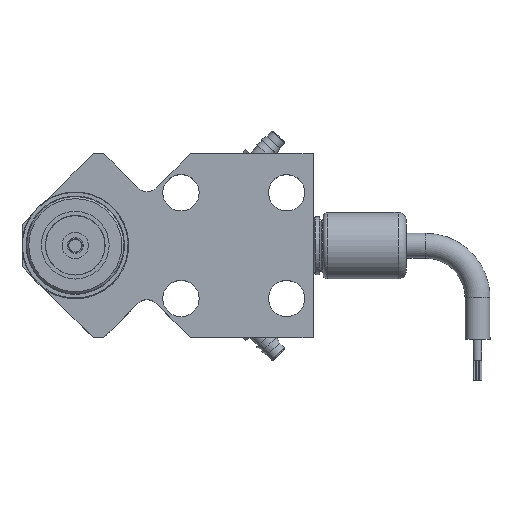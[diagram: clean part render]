
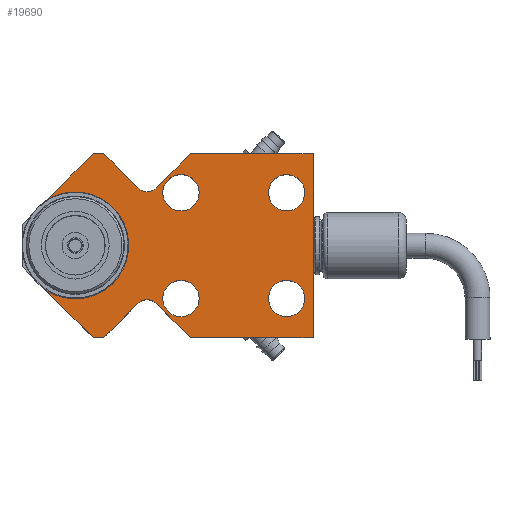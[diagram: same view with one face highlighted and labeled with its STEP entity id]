
A CAD part, top view. The second image highlights one B-rep face of the part: STEP entity #19690.
In plain terms, the highlighted planar face has unit normal (0, 0, 1).
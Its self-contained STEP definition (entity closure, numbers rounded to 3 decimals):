
#904=PLANE('',#20920);
#2370=LINE('',#84500,#3817);
#2736=LINE('',#86235,#4183);
#2970=LINE('',#87316,#4417);
#3045=LINE('',#87824,#4492);
#3046=LINE('',#87826,#4493);
#3047=LINE('',#87828,#4494);
#3048=LINE('',#87831,#4495);
#3049=LINE('',#87833,#4496);
#3050=LINE('',#87837,#4497);
#3051=LINE('',#87839,#4498);
#3052=LINE('',#87840,#4499);
#3817=VECTOR('',#23264,10.);
#4183=VECTOR('',#24056,10.);
#4417=VECTOR('',#24466,10.);
#4492=VECTOR('',#24773,10.);
#4493=VECTOR('',#24774,10.);
#4494=VECTOR('',#24775,10.);
#4495=VECTOR('',#24778,10.);
#4496=VECTOR('',#24779,10.);
#4497=VECTOR('',#24782,10.);
#4498=VECTOR('',#24783,10.);
#4499=VECTOR('',#24784,10.);
#4874=FACE_BOUND('',#7234,.T.);
#4875=FACE_BOUND('',#7235,.T.);
#4876=FACE_BOUND('',#7236,.T.);
#4877=FACE_BOUND('',#7237,.T.);
#5943=FACE_OUTER_BOUND('',#7233,.T.);
#7233=EDGE_LOOP('',(#17308,#17309,#17310,#17311,#17312,#17313,#17314,#17315,
#17316,#17317,#17318,#17319,#17320,#17321));
#7234=EDGE_LOOP('',(#17322));
#7235=EDGE_LOOP('',(#17323));
#7236=EDGE_LOOP('',(#17324));
#7237=EDGE_LOOP('',(#17325));
#7763=CIRCLE('',#20903,4.366);
#7764=CIRCLE('',#20905,4.366);
#7765=CIRCLE('',#20907,4.366);
#7766=CIRCLE('',#20909,4.366);
#7770=CIRCLE('',#20921,12.7);
#7771=CIRCLE('',#20922,3.175);
#7772=CIRCLE('',#20923,3.175);
#8941=VERTEX_POINT('',#84497);
#8942=VERTEX_POINT('',#84499);
#9298=VERTEX_POINT('',#86233);
#9485=VERTEX_POINT('',#87315);
#9562=VERTEX_POINT('',#87795);
#9563=VERTEX_POINT('',#87798);
#9564=VERTEX_POINT('',#87801);
#9565=VERTEX_POINT('',#87804);
#9569=VERTEX_POINT('',#87820);
#9570=VERTEX_POINT('',#87821);
#9571=VERTEX_POINT('',#87823);
#9572=VERTEX_POINT('',#87825);
#9573=VERTEX_POINT('',#87827);
#9574=VERTEX_POINT('',#87829);
#9575=VERTEX_POINT('',#87832);
#9576=VERTEX_POINT('',#87834);
#9577=VERTEX_POINT('',#87836);
#9578=VERTEX_POINT('',#87838);
#11267=EDGE_CURVE('',#8942,#8941,#2370,.T.);
#11769=EDGE_CURVE('',#8941,#9298,#2736,.T.);
#12062=EDGE_CURVE('',#9485,#8942,#2970,.T.);
#12187=EDGE_CURVE('',#9562,#9562,#7763,.T.);
#12188=EDGE_CURVE('',#9563,#9563,#7764,.T.);
#12189=EDGE_CURVE('',#9564,#9564,#7765,.T.);
#12190=EDGE_CURVE('',#9565,#9565,#7766,.T.);
#12194=EDGE_CURVE('',#9569,#9570,#7770,.T.);
#12195=EDGE_CURVE('',#9570,#9571,#3045,.T.);
#12196=EDGE_CURVE('',#9571,#9572,#3046,.T.);
#12197=EDGE_CURVE('',#9572,#9573,#3047,.T.);
#12198=EDGE_CURVE('',#9573,#9574,#7771,.T.);
#12199=EDGE_CURVE('',#9574,#9485,#3048,.T.);
#12200=EDGE_CURVE('',#9298,#9575,#3049,.T.);
#12201=EDGE_CURVE('',#9575,#9576,#7772,.T.);
#12202=EDGE_CURVE('',#9576,#9577,#3050,.T.);
#12203=EDGE_CURVE('',#9577,#9578,#3051,.T.);
#12204=EDGE_CURVE('',#9578,#9569,#3052,.T.);
#17308=ORIENTED_EDGE('',*,*,#12194,.T.);
#17309=ORIENTED_EDGE('',*,*,#12195,.T.);
#17310=ORIENTED_EDGE('',*,*,#12196,.T.);
#17311=ORIENTED_EDGE('',*,*,#12197,.T.);
#17312=ORIENTED_EDGE('',*,*,#12198,.T.);
#17313=ORIENTED_EDGE('',*,*,#12199,.T.);
#17314=ORIENTED_EDGE('',*,*,#12062,.T.);
#17315=ORIENTED_EDGE('',*,*,#11267,.T.);
#17316=ORIENTED_EDGE('',*,*,#11769,.T.);
#17317=ORIENTED_EDGE('',*,*,#12200,.T.);
#17318=ORIENTED_EDGE('',*,*,#12201,.T.);
#17319=ORIENTED_EDGE('',*,*,#12202,.T.);
#17320=ORIENTED_EDGE('',*,*,#12203,.T.);
#17321=ORIENTED_EDGE('',*,*,#12204,.T.);
#17322=ORIENTED_EDGE('',*,*,#12187,.T.);
#17323=ORIENTED_EDGE('',*,*,#12188,.T.);
#17324=ORIENTED_EDGE('',*,*,#12189,.T.);
#17325=ORIENTED_EDGE('',*,*,#12190,.T.);
#19690=ADVANCED_FACE('',(#5943,#4874,#4875,#4876,#4877),#904,.F.);
#20903=AXIS2_PLACEMENT_3D('',#87796,#24735,#24736);
#20905=AXIS2_PLACEMENT_3D('',#87799,#24739,#24740);
#20907=AXIS2_PLACEMENT_3D('',#87802,#24743,#24744);
#20909=AXIS2_PLACEMENT_3D('',#87805,#24747,#24748);
#20920=AXIS2_PLACEMENT_3D('',#87819,#24769,#24770);
#20921=AXIS2_PLACEMENT_3D('',#87822,#24771,#24772);
#20922=AXIS2_PLACEMENT_3D('',#87830,#24776,#24777);
#20923=AXIS2_PLACEMENT_3D('',#87835,#24780,#24781);
#23264=DIRECTION('',(0.,1.,0.));
#24056=DIRECTION('',(-1.,0.,0.));
#24466=DIRECTION('',(1.,0.,0.));
#24735=DIRECTION('center_axis',(0.,0.,
-1.));
#24736=DIRECTION('ref_axis',(1.,0.,0.));
#24739=DIRECTION('center_axis',(0.,0.,
-1.));
#24740=DIRECTION('ref_axis',(1.,0.,0.));
#24743=DIRECTION('center_axis',(0.,0.,
-1.));
#24744=DIRECTION('ref_axis',(1.,0.,0.));
#24747=DIRECTION('center_axis',(0.,0.,
-1.));
#24748=DIRECTION('ref_axis',(1.,0.,0.));
#24769=DIRECTION('center_axis',(0.,0.,
-1.));
#24770=DIRECTION('ref_axis',(-1.,0.,0.));
#24771=DIRECTION('center_axis',(0.,0.,
-1.));
#24772=DIRECTION('ref_axis',(0.55,-0.835,0.));
#24773=DIRECTION('',(0.707,-0.707,0.));
#24774=DIRECTION('',(1.,0.,0.));
#24775=DIRECTION('',(0.707,0.707,0.));
#24776=DIRECTION('center_axis',(0.,0.,
-1.));
#24777=DIRECTION('ref_axis',(0.707,0.707,0.));
#24778=DIRECTION('',(0.707,-0.707,0.));
#24779=DIRECTION('',(-0.707,-0.707,0.));
#24780=DIRECTION('center_axis',(0.,0.,
-1.));
#24781=DIRECTION('ref_axis',(-0.707,-0.707,0.));
#24782=DIRECTION('',(-0.707,0.707,0.));
#24783=DIRECTION('',(-1.,0.,0.));
#24784=DIRECTION('',(-0.707,-0.707,0.));
#84497=CARTESIAN_POINT('',(57.15,22.098,19.05));
#84499=CARTESIAN_POINT('',(57.15,-22.098,19.05));
#84500=CARTESIAN_POINT('',(57.15,-11.049,19.05));
#86233=CARTESIAN_POINT('',(27.686,22.098,19.05));
#86235=CARTESIAN_POINT('',(-14.478,22.098,19.05));
#87315=CARTESIAN_POINT('',(27.686,-22.098,19.05));
#87316=CARTESIAN_POINT('',(19.304,-22.098,19.05));
#87795=CARTESIAN_POINT('',(55.166,12.7,19.05));
#87796=CARTESIAN_POINT('Origin',(50.8,12.7,19.05));
#87798=CARTESIAN_POINT('',(55.166,-12.7,19.05));
#87799=CARTESIAN_POINT('Origin',(50.8,-12.7,19.05));
#87801=CARTESIAN_POINT('',(29.766,-12.7,19.05));
#87802=CARTESIAN_POINT('Origin',(25.4,-12.7,19.05));
#87804=CARTESIAN_POINT('',(29.766,12.7,19.05));
#87805=CARTESIAN_POINT('Origin',(25.4,12.7,19.05));
#87819=CARTESIAN_POINT('Origin',(-56.642,0.,19.05));
#87820=CARTESIAN_POINT('',(-7.62,10.16,19.05));
#87821=CARTESIAN_POINT('',(-7.62,-10.16,19.05));
#87822=CARTESIAN_POINT('Origin',(0.,0.,
19.05));
#87823=CARTESIAN_POINT('',(4.318,-22.098,19.05));
#87824=CARTESIAN_POINT('',(-16.447,-1.334,19.05));
#87825=CARTESIAN_POINT('',(6.858,-22.098,19.05));
#87826=CARTESIAN_POINT('',(-24.892,-22.098,19.05));
#87827=CARTESIAN_POINT('',(15.027,-13.929,19.05));
#87828=CARTESIAN_POINT('',(0.592,-28.364,19.05));
#87829=CARTESIAN_POINT('',(19.517,-13.929,19.05));
#87830=CARTESIAN_POINT('Origin',(17.272,-16.174,19.05));
#87831=CARTESIAN_POINT('',(1.079,4.509,19.05));
#87832=CARTESIAN_POINT('',(19.517,13.929,19.05));
#87833=CARTESIAN_POINT('',(-3.005,-8.593,19.05));
#87834=CARTESIAN_POINT('',(15.027,13.929,19.05));
#87835=CARTESIAN_POINT('Origin',(17.272,16.174,19.05));
#87836=CARTESIAN_POINT('',(6.858,22.098,19.05));
#87837=CARTESIAN_POINT('',(-3.493,32.449,19.05));
#87838=CARTESIAN_POINT('',(4.318,22.098,19.05));
#87839=CARTESIAN_POINT('',(-26.162,22.098,19.05));
#87840=CARTESIAN_POINT('',(-24.956,-7.176,19.05));
